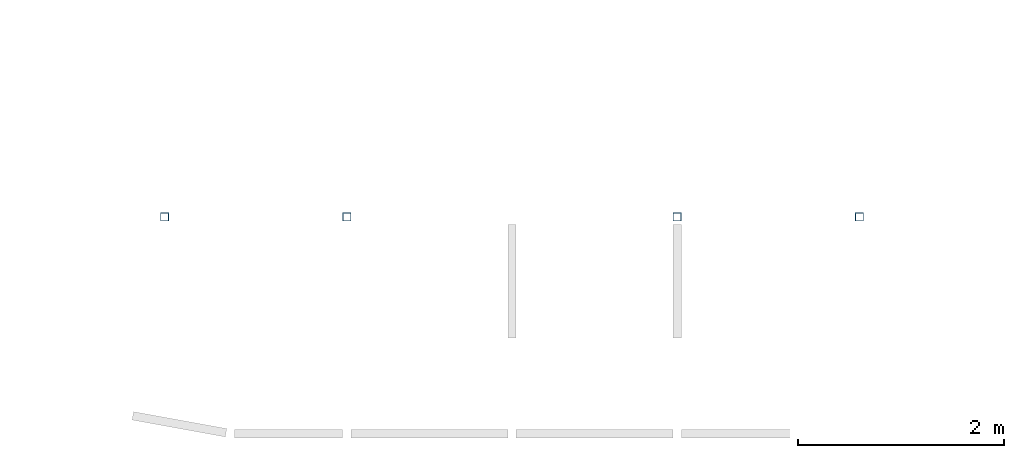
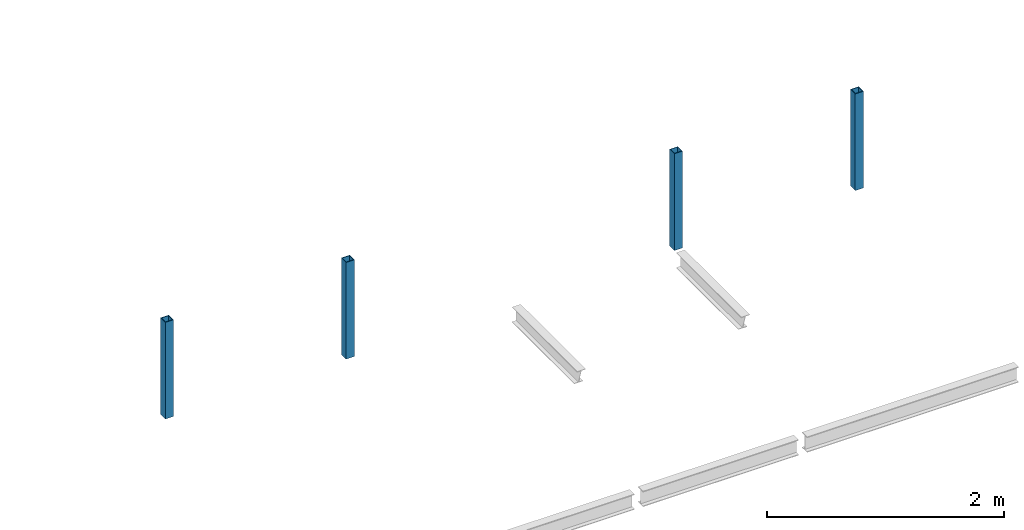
# One storey, part 1 of 3: 4 columns.
"""IFC2X3 building model written with IfcOpenShell, lengths in millimetres."""

from ifc_helpers import new_model, entity, si_unit, converted_unit, derived_unit, direction, frame, origin, place, context, subcontext, project, spatial, polyline, outline, extrude, source, transform, mapped, material, type_object, type_shapes, element, save


model = new_model("IFC2X3")

# Units and contexts
model_context = context("Model", 3, precision=0.01, world=origin(), true_north=direction((6.123031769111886e-17, 1.0)))
body_context = subcontext(model_context, "Body", "Model", "MODEL_VIEW")
ifc_project = project(units=[si_unit("LENGTHUNIT", "METRE", prefix="MILLI"), si_unit("AREAUNIT", "SQUARE_METRE", prefix="MILLI"), si_unit("VOLUMEUNIT", "CUBIC_METRE"), converted_unit("PLANEANGLEUNIT", "DEGREE", entity("IfcPlaneAngleMeasure", 0.017453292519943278), si_unit("PLANEANGLEUNIT", "RADIAN"), dimensions=[0, 0, 0, 0, 0, 0, 0]), si_unit("MASSUNIT", "GRAM", prefix="KILO"), derived_unit("MASSDENSITYUNIT", [(si_unit("MASSUNIT", "GRAM", prefix="KILO"), 1), (si_unit("LENGTHUNIT", "METRE"), -3)]), derived_unit("IONCONCENTRATIONUNIT", [(si_unit("MASSUNIT", "GRAM", prefix="KILO"), 1), (si_unit("LENGTHUNIT", "METRE"), -3)]), derived_unit("MOMENTOFINERTIAUNIT", [(si_unit("LENGTHUNIT", "METRE"), 4)]), si_unit("TIMEUNIT", "SECOND"), si_unit("FREQUENCYUNIT", "HERTZ"), si_unit("THERMODYNAMICTEMPERATUREUNIT", "DEGREE_CELSIUS"), derived_unit("THERMALTRANSMITTANCEUNIT", [(si_unit("MASSUNIT", "GRAM", prefix="KILO"), 1), (si_unit("THERMODYNAMICTEMPERATUREUNIT", "KELVIN"), -1), (si_unit("TIMEUNIT", "SECOND"), -3)]), derived_unit("THERMALCONDUCTANCEUNIT", [(si_unit("MASSUNIT", "GRAM", prefix="KILO"), 1), (si_unit("THERMODYNAMICTEMPERATUREUNIT", "KELVIN"), -1), (si_unit("TIMEUNIT", "SECOND"), -3), (si_unit("LENGTHUNIT", "METRE"), 1)]), derived_unit("VOLUMETRICFLOWRATEUNIT", [(si_unit("LENGTHUNIT", "METRE", prefix="DECI"), 3), (si_unit("TIMEUNIT", "SECOND"), -1)]), derived_unit("MASSFLOWRATEUNIT", [(si_unit("MASSUNIT", "GRAM", prefix="KILO"), 1), (si_unit("TIMEUNIT", "SECOND"), -1)]), derived_unit("ROTATIONALFREQUENCYUNIT", [(si_unit("TIMEUNIT", "SECOND"), -1)]), si_unit("ELECTRICCURRENTUNIT", "AMPERE"), si_unit("ELECTRICVOLTAGEUNIT", "VOLT"), si_unit("POWERUNIT", "WATT"), si_unit("FORCEUNIT", "NEWTON", prefix="KILO"), si_unit("ILLUMINANCEUNIT", "LUX"), si_unit("LUMINOUSFLUXUNIT", "LUMEN"), si_unit("LUMINOUSINTENSITYUNIT", "CANDELA"), si_unit("ENERGYUNIT", "JOULE"), derived_unit("USERDEFINED", [(si_unit("MASSUNIT", "GRAM", prefix="KILO"), -1), (si_unit("LENGTHUNIT", "METRE"), -2), (si_unit("TIMEUNIT", "SECOND"), 3), (si_unit("LUMINOUSFLUXUNIT", "LUMEN"), 1)]), derived_unit("USERDEFINED", [(si_unit("MASSUNIT", "GRAM", prefix="KILO"), 1), (si_unit("TIMEUNIT", "SECOND"), -3), (si_unit("LENGTHUNIT", "METRE"), 3), (si_unit("ELECTRICCURRENTUNIT", "AMPERE"), -2)]), derived_unit("SOUNDPOWERUNIT", [(si_unit("MASSUNIT", "GRAM", prefix="KILO"), 1), (si_unit("TIMEUNIT", "SECOND"), -3), (si_unit("LENGTHUNIT", "METRE"), 2)]), derived_unit("SOUNDPRESSUREUNIT", [(si_unit("MASSUNIT", "GRAM", prefix="KILO"), 1), (si_unit("LENGTHUNIT", "METRE"), -1), (si_unit("TIMEUNIT", "SECOND"), -2)]), derived_unit("LINEARVELOCITYUNIT", [(si_unit("LENGTHUNIT", "METRE"), 1), (si_unit("TIMEUNIT", "SECOND"), -1)]), si_unit("PRESSUREUNIT", "PASCAL"), derived_unit("USERDEFINED", [(si_unit("MASSUNIT", "GRAM", prefix="KILO"), 1), (si_unit("LENGTHUNIT", "METRE"), -2), (si_unit("TIMEUNIT", "SECOND"), -2)]), derived_unit("LINEARFORCEUNIT", [(si_unit("MASSUNIT", "GRAM", prefix="KILO"), 1), (si_unit("TIMEUNIT", "SECOND"), -2)]), derived_unit("PLANARFORCEUNIT", [(si_unit("MASSUNIT", "GRAM", prefix="KILO"), 1), (si_unit("LENGTHUNIT", "METRE"), -1), (si_unit("TIMEUNIT", "SECOND"), -2)]), derived_unit("SPECIFICHEATCAPACITYUNIT", [(si_unit("THERMODYNAMICTEMPERATUREUNIT", "KELVIN"), -1), (si_unit("LENGTHUNIT", "METRE"), 2), (si_unit("TIMEUNIT", "SECOND"), -2)]), derived_unit("HEATFLUXDENSITYUNIT", [(si_unit("MASSUNIT", "GRAM", prefix="KILO"), 1), (si_unit("TIMEUNIT", "SECOND"), -3)]), derived_unit("HEATINGVALUEUNIT", [(si_unit("LENGTHUNIT", "METRE"), 2), (si_unit("TIMEUNIT", "SECOND"), -2)]), derived_unit("VAPORPERMEABILITYUNIT", [(si_unit("LENGTHUNIT", "METRE"), -1), (si_unit("TIMEUNIT", "SECOND"), 1)]), derived_unit("DYNAMICVISCOSITYUNIT", [(si_unit("MASSUNIT", "GRAM", prefix="KILO"), 1), (si_unit("TIMEUNIT", "SECOND"), -1), (si_unit("LENGTHUNIT", "METRE"), -1)]), derived_unit("THERMALEXPANSIONCOEFFICIENTUNIT", [(si_unit("THERMODYNAMICTEMPERATUREUNIT", "KELVIN"), -1)]), derived_unit("MODULUSOFELASTICITYUNIT", [(si_unit("MASSUNIT", "GRAM", prefix="KILO"), 1), (si_unit("LENGTHUNIT", "METRE"), -1), (si_unit("TIMEUNIT", "SECOND"), -2)]), derived_unit("ISOTHERMALMOISTURECAPACITYUNIT", [(si_unit("MASSUNIT", "GRAM", prefix="KILO"), -1), (si_unit("LENGTHUNIT", "METRE"), 3)]), derived_unit("MOISTUREDIFFUSIVITYUNIT", [(si_unit("TIMEUNIT", "SECOND"), -1), (si_unit("LENGTHUNIT", "METRE"), 2)]), derived_unit("MASSPERLENGTHUNIT", [(si_unit("MASSUNIT", "GRAM", prefix="KILO"), 1), (si_unit("LENGTHUNIT", "METRE"), -1)]), derived_unit("THERMALRESISTANCEUNIT", [(si_unit("MASSUNIT", "GRAM", prefix="KILO"), -1), (si_unit("TIMEUNIT", "SECOND"), 3), (si_unit("THERMODYNAMICTEMPERATUREUNIT", "KELVIN"), 1)]), derived_unit("ACCELERATIONUNIT", [(si_unit("LENGTHUNIT", "METRE"), 1), (si_unit("TIMEUNIT", "SECOND"), -2)]), derived_unit("ANGULARVELOCITYUNIT", [(si_unit("TIMEUNIT", "SECOND"), -1), (si_unit("PLANEANGLEUNIT", "RADIAN"), 1)]), derived_unit("LINEARSTIFFNESSUNIT", [(si_unit("MASSUNIT", "GRAM", prefix="KILO"), 1), (si_unit("TIMEUNIT", "SECOND"), -2)]), derived_unit("WARPINGCONSTANTUNIT", [(si_unit("LENGTHUNIT", "METRE"), 6)]), derived_unit("LINEARMOMENTUNIT", [(si_unit("MASSUNIT", "GRAM", prefix="KILO"), 1), (si_unit("LENGTHUNIT", "METRE"), 1), (si_unit("TIMEUNIT", "SECOND"), -2)]), derived_unit("TORQUEUNIT", [(si_unit("MASSUNIT", "GRAM", prefix="KILO"), 1), (si_unit("LENGTHUNIT", "METRE"), 2), (si_unit("TIMEUNIT", "SECOND"), -2)])], contexts=[model_context])

# Site, building, storey
site_placement = place(None, origin())
site = spatial("IfcSite", under=ifc_project, at=site_placement, Name="Default", CompositionType="ELEMENT")
building_placement = place(site_placement, origin())
building = spatial("IfcBuilding", under=site, at=building_placement, CompositionType="ELEMENT")
storey_placement = place(building_placement, frame((0.0, 0.0, 2550.0)))
storey = spatial("IfcBuildingStorey", under=building, at=storey_placement, Name="KDV V1 1e verd. (bk ruwe vloer)", CompositionType="ELEMENT", Elevation=2550.000000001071)

# Columns
ifc_material = material(Name="Metal - Steel - S275 J0H (standaard-kokers/buizen)")
column_type_1 = type_object("IfcColumnType", Name="btk_staal - Koker:K80x80x6", PredefinedType="COLUMN", material=ifc_material)
shared_shape_1 = source(origin(), body_context, "Body", "SweptSolid", [
    extrude(outline(polyline([(-40.0, -40.0), (40.0, -40.0), (40.0, 40.0), (-40.0, 40.0), (-40.0, -40.0)]), holes=[polyline([(-34.0, -34.0), (-34.0, 34.0), (34.0, 34.0), (34.0, -34.0), (-34.0, -34.0)])]), frame((17324.69148107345, 31668.56106542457, 2472.600000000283), z_axis=(0.0, 0.0, 1.0), x_axis=(-1.0, 0.0, 0.0)), (0.0, 0.0, 1.0), 997.3999999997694),
])
type_shapes(column_type_1, [shared_shape_1])
column_1_placement = place(storey_placement, frame((0.0, 0.0, -2550.0)))
element("IfcColumn", 1, at=column_1_placement, inside=storey, type_object=column_type_1, material=ifc_material, Name="btk_staal - Koker:K80x80x6", ObjectType="btk_staal - Koker:K80x80x6", context=body_context, shape_type="MappedRepresentation", body=[
    mapped(shared_shape_1, transform((0.0, 0.0, 0.0), scale=1.0)),
])
column_type_2 = type_object("IfcColumnType", Name="btk_staal - Koker:K80x80x6", PredefinedType="COLUMN", material=ifc_material)
shared_shape_2 = source(origin(), body_context, "Body", "SweptSolid", [
    extrude(outline(polyline([(-40.0, -40.0), (40.0, -40.0), (40.0, 40.0), (-40.0, 40.0), (-40.0, -40.0)]), holes=[polyline([(-34.0, -34.0), (-34.0, 34.0), (34.0, 34.0), (34.0, -34.0), (-34.0, -34.0)])]), frame((20526.595059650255, 31668.561065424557, 2472.600000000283), z_axis=(0.0, 0.0, 1.0), x_axis=(-1.0, 0.0, 0.0)), (0.0, 0.0, 1.0), 997.3999999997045),
])
type_shapes(column_type_2, [shared_shape_2])
column_2_placement = place(storey_placement, frame((0.0, 0.0, -2550.0)))
element("IfcColumn", 2, at=column_2_placement, inside=storey, type_object=column_type_2, material=ifc_material, Name="btk_staal - Koker:K80x80x6", ObjectType="btk_staal - Koker:K80x80x6", context=body_context, shape_type="MappedRepresentation", body=[
    mapped(shared_shape_2, transform((0.0, 0.0, 0.0), scale=1.0)),
])
column_type_3 = type_object("IfcColumnType", Name="btk_staal - Koker:K80x80x6", PredefinedType="COLUMN", material=ifc_material)
shared_shape_3 = source(origin(), body_context, "Body", "SweptSolid", [
    extrude(outline(polyline([(-40.0, -40.0), (40.0, -40.0), (40.0, 40.0), (-40.0, 40.0), (-40.0, -40.0)]), holes=[polyline([(-34.0, -34.0), (-34.0, 34.0), (34.0, 34.0), (34.0, -34.0), (-34.0, -34.0)])]), frame((22290.645339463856, 31668.561065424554, 2472.600000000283), z_axis=(0.0, 0.0, 1.0), x_axis=(-1.0, 0.0, 0.0)), (0.0, 0.0, 1.0), 997.3999999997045),
])
type_shapes(column_type_3, [shared_shape_3])
column_3_placement = place(storey_placement, frame((0.0, 0.0, -2550.0)))
element("IfcColumn", 3, at=column_3_placement, inside=storey, type_object=column_type_3, material=ifc_material, Name="btk_staal - Koker:K80x80x6", ObjectType="btk_staal - Koker:K80x80x6", context=body_context, shape_type="MappedRepresentation", body=[
    mapped(shared_shape_3, transform((0.0, 0.0, 0.0), scale=1.0)),
])
column_type_4 = type_object("IfcColumnType", Name="btk_staal - Koker:K80x80x6", PredefinedType="COLUMN", material=ifc_material)
shared_shape_4 = source(origin(), body_context, "Body", "SweptSolid", [
    extrude(outline(polyline([(-40.0, -40.0), (40.0, -40.0), (40.0, 40.0), (-40.0, 40.0), (-40.0, -40.0)]), holes=[polyline([(-34.0, -34.0), (-34.0, 34.0), (34.0, 34.0), (34.0, -34.0), (-34.0, -34.0)])]), frame((15560.532850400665, 31668.561065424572, 2472.600000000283), z_axis=(0.0, 0.0, 1.0), x_axis=(-1.0, 0.0, 0.0)), (0.0, 0.0, 1.0), 997.3999999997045),
])
type_shapes(column_type_4, [shared_shape_4])
column_4_placement = place(storey_placement, frame((0.0, 0.0, -2550.0)))
element("IfcColumn", 4, at=column_4_placement, inside=storey, type_object=column_type_4, material=ifc_material, Name="btk_staal - Koker:K80x80x6", ObjectType="btk_staal - Koker:K80x80x6", context=body_context, shape_type="MappedRepresentation", body=[
    mapped(shared_shape_4, transform((0.0, 0.0, 0.0), scale=1.0)),
])

save(model, "model.ifc")
